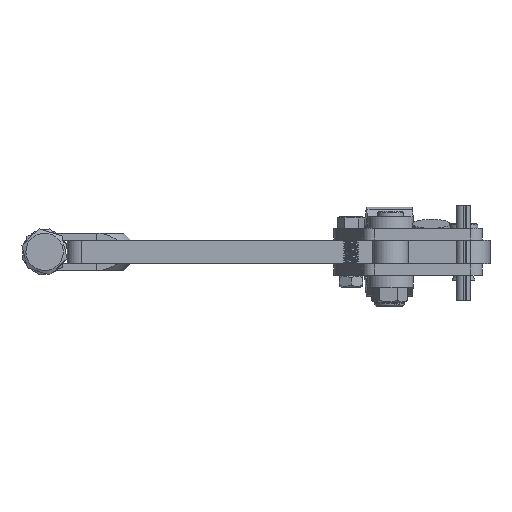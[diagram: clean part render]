
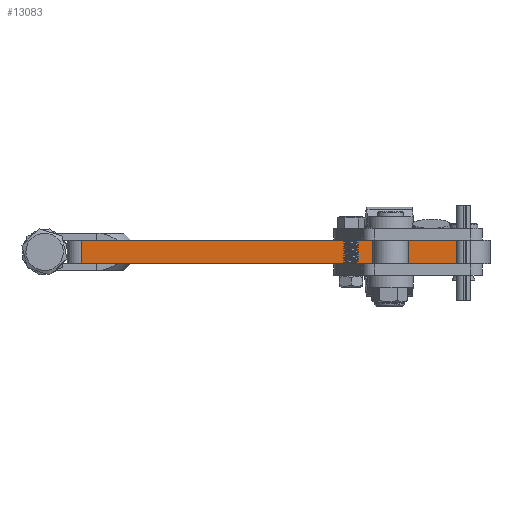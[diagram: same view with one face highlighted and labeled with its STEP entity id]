
A CAD part, front view. The second image highlights one B-rep face of the part: STEP entity #13083.
In plain terms, the highlighted planar face has unit normal (-0.001, -1, 0).
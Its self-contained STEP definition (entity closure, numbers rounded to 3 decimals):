
#1191=PLANE('',#14205);
#1556=FACE_OUTER_BOUND('',#2308,.T.);
#2308=EDGE_LOOP('',(#9643,#9644,#9645,#9646));
#3136=LINE('',#36115,#4136);
#3202=LINE('',#37536,#4202);
#3243=LINE('',#38266,#4243);
#3244=LINE('',#38268,#4244);
#4136=VECTOR('',#15506,1000.);
#4202=VECTOR('',#15580,1000.);
#4243=VECTOR('',#15629,1000.);
#4244=VECTOR('',#15632,1000.);
#5578=VERTEX_POINT('',#36112);
#5579=VERTEX_POINT('',#36114);
#5760=VERTEX_POINT('',#37533);
#5761=VERTEX_POINT('',#37535);
#7049=EDGE_CURVE('',#5579,#5578,#3136,.T.);
#7231=EDGE_CURVE('',#5760,#5761,#3202,.T.);
#7304=EDGE_CURVE('',#5760,#5579,#3243,.T.);
#7305=EDGE_CURVE('',#5761,#5578,#3244,.T.);
#9643=ORIENTED_EDGE('',*,*,#7049,.T.);
#9644=ORIENTED_EDGE('',*,*,#7305,.F.);
#9645=ORIENTED_EDGE('',*,*,#7231,.F.);
#9646=ORIENTED_EDGE('',*,*,#7304,.T.);
#13083=ADVANCED_FACE('',(#1556),#1191,.F.);
#14205=AXIS2_PLACEMENT_3D('',#38267,#15630,#15631);
#15506=DIRECTION('',(1.,0.,0.));
#15580=DIRECTION('',(1.,0.,0.));
#15629=DIRECTION('',(0.,0.,-1.));
#15630=DIRECTION('center_axis',(0.,1.,0.));
#15631=DIRECTION('ref_axis',(0.,0.,1.));
#15632=DIRECTION('',(0.,0.,-1.));
#36112=CARTESIAN_POINT('',(0.,-11.25,0.));
#36114=CARTESIAN_POINT('',(-162.15,-11.25,0.));
#36115=CARTESIAN_POINT('',(-162.15,-11.25,0.));
#37533=CARTESIAN_POINT('',(-162.15,-11.25,10.));
#37535=CARTESIAN_POINT('',(0.,-11.25,10.));
#37536=CARTESIAN_POINT('',(-162.15,-11.25,10.));
#38266=CARTESIAN_POINT('',(-162.15,-11.25,10.));
#38267=CARTESIAN_POINT('Origin',(-162.15,-11.25,10.));
#38268=CARTESIAN_POINT('',(0.,-11.25,10.));
